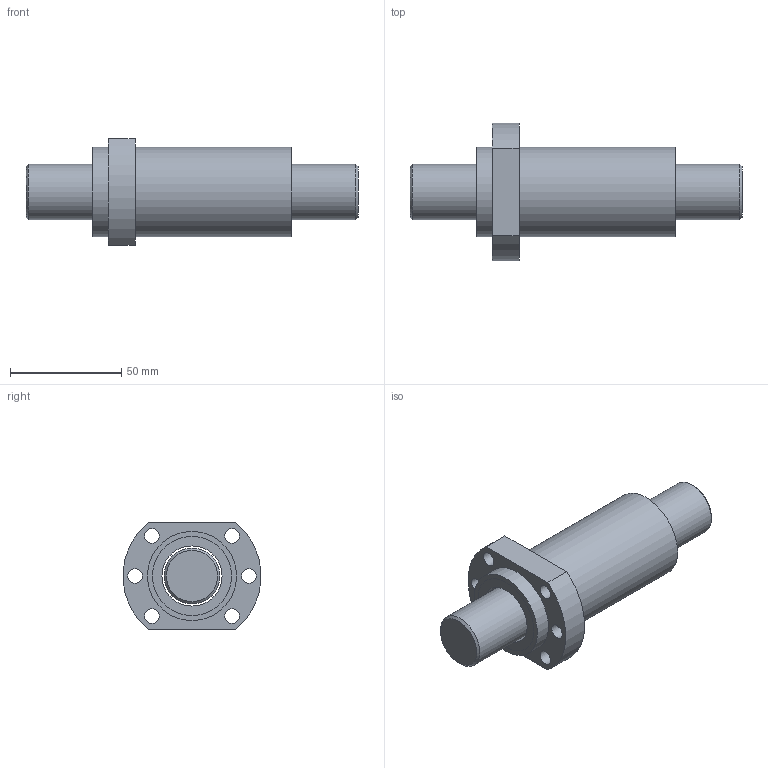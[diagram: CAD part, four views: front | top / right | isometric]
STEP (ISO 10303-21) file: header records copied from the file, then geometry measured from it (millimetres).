
FILE_DESCRIPTION(/* description */ (''),/* implementation_level */ '2;1');
FILE_NAME(/* name */ 'SFH2525-2.8.stp',/* time_stamp */ '2015-11-23T08:44:25+08:00',/* author */ (''),/* organization */ (''),/* preprocessor_version */ 'ST-DEVELOPER v11',/* originating_system */ 'SIEMENS UGS NX 6.0',/* authorisation */ '');
FILE_SCHEMA (('CONFIG_CONTROL_DESIGN'));
Length unit declared in the file: millimetre
Products named in the file (1): fann7DDE8qtk
Bounding box: 149 x 61.8 x 48 mm (x, y, z)
Volume: 148127.9 mm3; surface area: 42698.4 mm2
Topology: 4 solids, 4 shells, 50 faces, 90 edges, 60 vertices
Faces by surface type: cylinder 26, plane 22, cone 2
Full cylindrical faces by diameter (mm): 6.6 x6, 25 x1, 27 x3, 32 x4, 35.5 x4, 37 x4, 40 x2
Entity records: 1216 total; most frequent: DIRECTION 218, CARTESIAN_POINT 171, ORIENTED_EDGE 124, EDGE_LOOP 106, AXIS2_PLACEMENT_3D 105, FACE_BOUND 100, EDGE_CURVE 62, VERTEX_POINT 58
